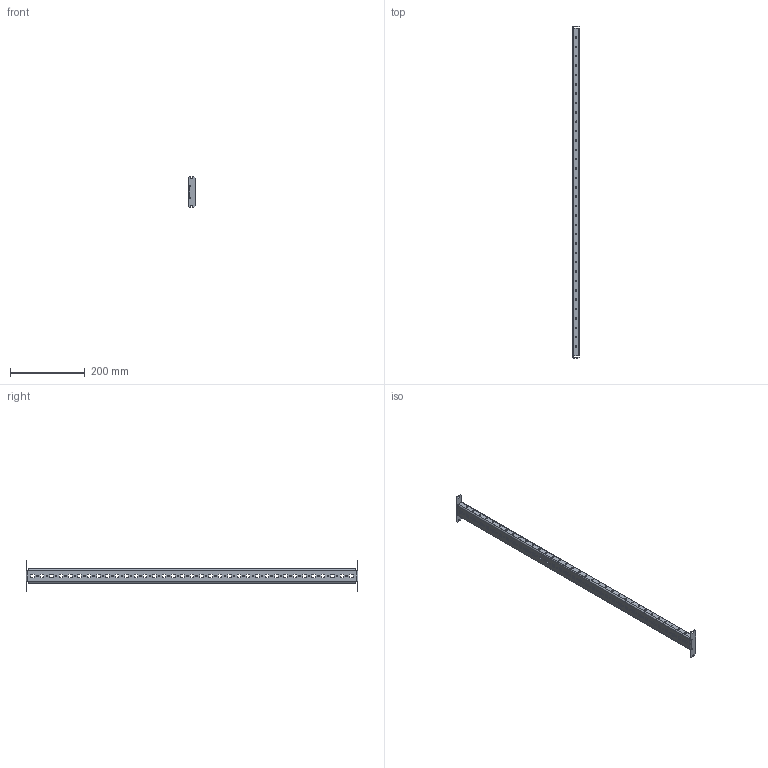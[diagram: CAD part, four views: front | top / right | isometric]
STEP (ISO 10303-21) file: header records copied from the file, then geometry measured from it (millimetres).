
FILE_DESCRIPTION (( 'STEP AP203' ), '1' );
FILE_NAME ('MG 100.04 CL Òðàâåðñà ìîíòàæíàÿ.STEP', '2015-07-21T10:50:56', ( 'System' ), ( '' ), 'SwSTEP 2.0', 'SolidWorks 2012', '' );
FILE_SCHEMA (( 'CONFIG_CONTROL_DESIGN' ));
Length unit declared in the file: millimetre
Products named in the file (1): MG 100.04 CL Òðàâåðñà ìîíòàæíàÿ
Bounding box: 18.5 x 886 x 82.5 mm (x, y, z)
Volume: 143450.8 mm3; surface area: 153133.5 mm2
Topology: 1 solids, 1 shells, 576 faces, 1690 edges, 1116 vertices
Faces by surface type: cylinder 362, plane 214
Entity records: 20027 total; most frequent: DIRECTION 3568, CARTESIAN_POINT 3383, ORIENTED_EDGE 3380, EDGE_CURVE 1690, AXIS2_PLACEMENT_3D 1301, VERTEX_POINT 1116, VECTOR 966, LINE 966
